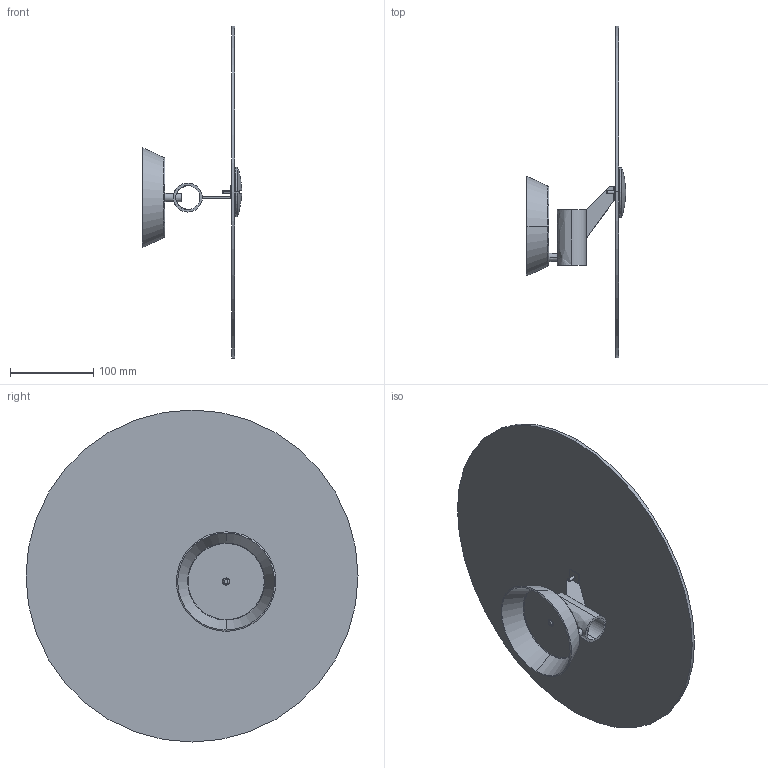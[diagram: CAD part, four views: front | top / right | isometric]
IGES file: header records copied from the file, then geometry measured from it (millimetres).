
Start section: SolidWorks IGES file using analytic representation for surfaces
Global section: file name: X:\stage\BIT\BIT 3.IGS; native system: SolidWorks 2006 by SolidWorks Corporation; preprocessor: SolidWorks 2006 by SolidWorks Corporation; author: stagetec; date: 060919.161448; units: millimetre
Bounding box: 119.64 x 400 x 400 mm (x, y, z)
Volume: 559690.4 mm3; surface area: 318988.8 mm2
Topology: 5 solids, 5 shells, 79 faces, 169 edges, 106 vertices
Faces by surface type: revolution 51, plane 28
